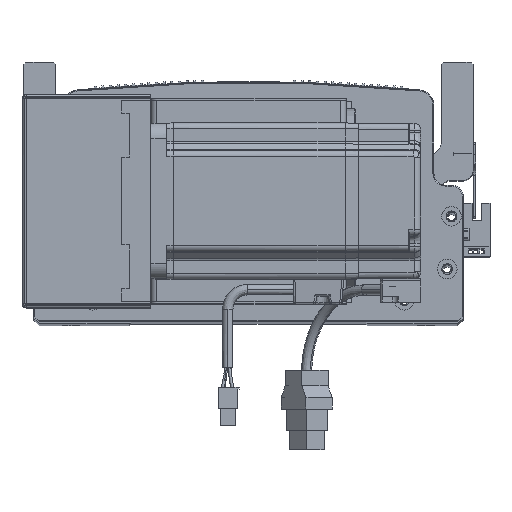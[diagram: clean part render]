
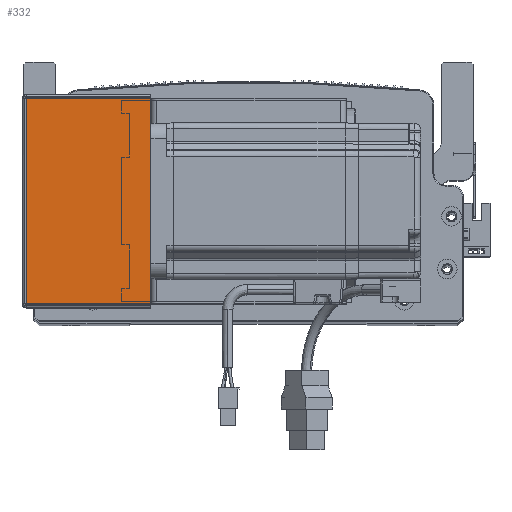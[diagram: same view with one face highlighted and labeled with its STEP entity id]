
A CAD part, top view. The second image highlights one B-rep face of the part: STEP entity #332.
In plain terms, the highlighted planar face has unit normal (0, 0, 1) as drawn and (0, 0, -1) by its records, which use the part's own axes.
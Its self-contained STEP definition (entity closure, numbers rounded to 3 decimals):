
#332 = ADVANCED_FACE ( 'NONE', ( #63419 ), #15458, .F. ) ;
#1939 = DIRECTION ( 'NONE',  ( 0., -1., 0. ) ) ;
#5460 = ORIENTED_EDGE ( 'NONE', *, *, #51734, .T. ) ;
#13326 = EDGE_CURVE ( 'NONE', #51060, #79485, #79876, .T. ) ;
#14232 = CARTESIAN_POINT ( 'NONE',  ( 64.5, 0., -205.5 ) ) ;
#14805 = ORIENTED_EDGE ( 'NONE', *, *, #36763, .F. ) ;
#15458 = PLANE ( 'NONE',  #35404 ) ;
#15977 = CARTESIAN_POINT ( 'NONE',  ( 0.737, 105.293, -205.5 ) ) ;
#18038 = ORIENTED_EDGE ( 'NONE', *, *, #73635, .T. ) ;
#20678 = VECTOR ( 'NONE', #37280, 1000. ) ;
#21682 = VECTOR ( 'NONE', #58654, 1000. ) ;
#22964 = CARTESIAN_POINT ( 'NONE',  ( 0.737, 0., -205.5 ) ) ;
#25695 = LINE ( 'NONE', #33882, #21682 ) ;
#25804 = CARTESIAN_POINT ( 'NONE',  ( 64.5, 105.293, -205.5 ) ) ;
#25878 = CARTESIAN_POINT ( 'NONE',  ( 64.5, 0.707, -205.5 ) ) ;
#26613 = DIRECTION ( 'NONE',  ( 1., 0., 0. ) ) ;
#33882 = CARTESIAN_POINT ( 'NONE',  ( 0., 0.707, -205.5 ) ) ;
#34881 = ORIENTED_EDGE ( 'NONE', *, *, #13326, .F. ) ;
#35404 = AXIS2_PLACEMENT_3D ( 'NONE', #66504, #64824, #26613 ) ;
#36763 = EDGE_CURVE ( 'NONE', #79485, #76852, #25695, .T. ) ;
#37280 = DIRECTION ( 'NONE',  ( 1., 0., 0. ) ) ;
#38878 = EDGE_LOOP ( 'NONE', ( #34881, #5460, #18038, #14805 ) ) ;
#51060 = VERTEX_POINT ( 'NONE', #15977 ) ;
#51734 = EDGE_CURVE ( 'NONE', #51060, #66518, #56550, .T. ) ;
#52835 = VECTOR ( 'NONE', #53601, 1000. ) ;
#53601 = DIRECTION ( 'NONE',  ( 0., -1., 0. ) ) ;
#56484 = CARTESIAN_POINT ( 'NONE',  ( 0., 105.293, -205.5 ) ) ;
#56550 = LINE ( 'NONE', #56484, #20678 ) ;
#58654 = DIRECTION ( 'NONE',  ( 1., 0., 0. ) ) ;
#63419 = FACE_OUTER_BOUND ( 'NONE', #38878, .T. ) ;
#64824 = DIRECTION ( 'NONE',  ( 0., 0., 1. ) ) ;
#64855 = CARTESIAN_POINT ( 'NONE',  ( 0.737, 0.707, -205.5 ) ) ;
#66504 = CARTESIAN_POINT ( 'NONE',  ( 0., 0., -205.5 ) ) ;
#66518 = VERTEX_POINT ( 'NONE', #25804 ) ;
#69095 = VECTOR ( 'NONE', #1939, 1000. ) ;
#70163 = LINE ( 'NONE', #14232, #69095 ) ;
#73635 = EDGE_CURVE ( 'NONE', #66518, #76852, #70163, .T. ) ;
#76852 = VERTEX_POINT ( 'NONE', #25878 ) ;
#79485 = VERTEX_POINT ( 'NONE', #64855 ) ;
#79876 = LINE ( 'NONE', #22964, #52835 ) ;
